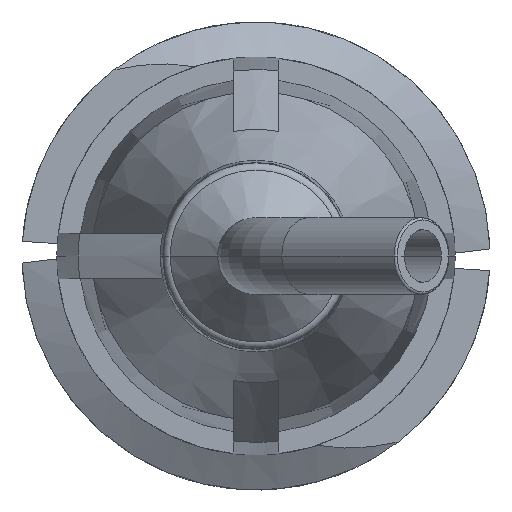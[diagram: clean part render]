
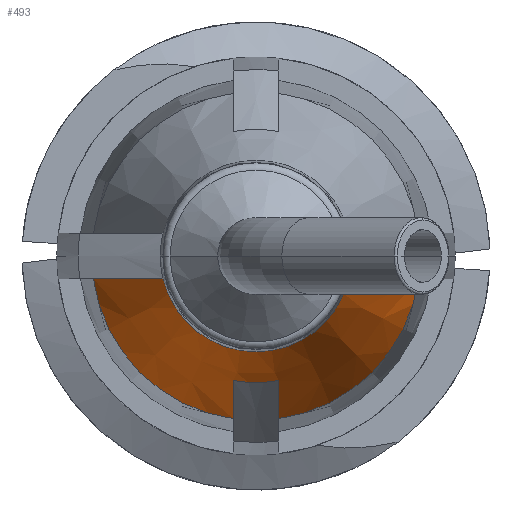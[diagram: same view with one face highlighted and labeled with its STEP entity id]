
A CAD part, front view. The second image highlights one B-rep face of the part: STEP entity #493.
In plain terms, the highlighted conical face has half-angle 20 degrees and reference radius 2.745 mm.
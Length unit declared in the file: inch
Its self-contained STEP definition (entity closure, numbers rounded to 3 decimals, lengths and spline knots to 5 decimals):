
#51 = EDGE_CURVE ( 'NONE', #1313, #1390, #3504, .T. ) ;
#143 = CARTESIAN_POINT ( 'NONE',  ( -0.015, -0.42866, -0.0987 ) ) ;
#208 = VERTEX_POINT ( 'NONE', #4311 ) ;
#240 = ORIENTED_EDGE ( 'NONE', *, *, #2311, .F. ) ;
#275 = CARTESIAN_POINT ( 'NONE',  ( 0.015, -0.42866, -0.0987 ) ) ;
#445 = AXIS2_PLACEMENT_3D ( 'NONE', #800, #3090, #4063 ) ;
#493 = ADVANCED_FACE ( 'NONE', ( #3797 ), #1009, .T. ) ;
#527 = VERTEX_POINT ( 'NONE', #1704 ) ;
#603 = CARTESIAN_POINT ( 'NONE',  ( 0.10703, -0.406, -0.015 ) ) ;
#790 = ORIENTED_EDGE ( 'NONE', *, *, #1453, .T. ) ;
#800 = CARTESIAN_POINT ( 'NONE',  ( 0., -0.406, 0. ) ) ;
#877 = AXIS2_PLACEMENT_3D ( 'NONE', #1320, #3567, #3590 ) ;
#949 = CARTESIAN_POINT ( 'NONE',  ( 0.015, -0.45131, -0.09036 ) ) ;
#1009 = CONICAL_SURFACE ( 'NONE', #445, 0.10808, 0.349 ) ;
#1013 = CARTESIAN_POINT ( 'NONE',  ( -0.015, -0.406, -0.10703 ) ) ;
#1024 = EDGE_LOOP ( 'NONE', ( #1084, #1369, #790, #2202, #1316, #2691, #240, #1149 ) ) ;
#1084 = ORIENTED_EDGE ( 'NONE', *, *, #2301, .F. ) ;
#1116 = VERTEX_POINT ( 'NONE', #2555 ) ;
#1149 = ORIENTED_EDGE ( 'NONE', *, *, #1402, .F. ) ;
#1230 = CARTESIAN_POINT ( 'NONE',  ( -0.07664, -0.48863, -0.015 ) ) ;
#1313 = VERTEX_POINT ( 'NONE', #3020 ) ;
#1316 = ORIENTED_EDGE ( 'NONE', *, *, #51, .F. ) ;
#1320 = CARTESIAN_POINT ( 'NONE',  ( 0., -0.406, 0. ) ) ;
#1329 = VERTEX_POINT ( 'NONE', #2091 ) ;
#1369 = ORIENTED_EDGE ( 'NONE', *, *, #3343, .T. ) ;
#1390 = VERTEX_POINT ( 'NONE', #1013 ) ;
#1402 = EDGE_CURVE ( 'NONE', #1329, #1116, #1747, .T. ) ;
#1453 = EDGE_CURVE ( 'NONE', #527, #3353, #4292, .T. ) ;
#1470 = CARTESIAN_POINT ( 'NONE',  ( -0.015, -0.47395, -0.08198 ) ) ;
#1496 = CARTESIAN_POINT ( 'NONE',  ( -0.06119, -0.52985, -0.015 ) ) ;
#1578 = CIRCLE ( 'NONE', #3841, 0.063 ) ;
#1588 = DIRECTION ( 'NONE',  ( 0., 1., 0. ) ) ;
#1605 = AXIS2_PLACEMENT_3D ( 'NONE', #3823, #2919, #1830 ) ;
#1704 = CARTESIAN_POINT ( 'NONE',  ( -0.06119, -0.52985, -0.015 ) ) ;
#1747 = CIRCLE ( 'NONE', #1605, 0.10808 ) ;
#1830 = DIRECTION ( 'NONE',  ( 1., 0., 0. ) ) ;
#1898 = CARTESIAN_POINT ( 'NONE',  ( 0., -0.52985, 0. ) ) ;
#1910 = CARTESIAN_POINT ( 'NONE',  ( 0., -0.47395, 0. ) ) ;
#1930 = CARTESIAN_POINT ( 'NONE',  ( 0.015, -0.47395, -0.08198 ) ) ;
#1975 = DIRECTION ( 'NONE',  ( -1., 0., 0. ) ) ;
#2091 = CARTESIAN_POINT ( 'NONE',  ( 0.10703, -0.406, -0.015 ) ) ;
#2122 = B_SPLINE_CURVE_WITH_KNOTS ( 'NONE', 3,
 ( #3944, #3001, #2641, #603 ),
 .UNSPECIFIED., .F., .F.,
 ( 4, 4 ),
 ( 0.00282, 0.00617 ),
 .UNSPECIFIED. ) ;
#2202 = ORIENTED_EDGE ( 'NONE', *, *, #2773, .F. ) ;
#2301 = EDGE_CURVE ( 'NONE', #3262, #1329, #2122, .T. ) ;
#2311 = EDGE_CURVE ( 'NONE', #1116, #208, #4123, .T. ) ;
#2555 = CARTESIAN_POINT ( 'NONE',  ( 0.015, -0.406, -0.10703 ) ) ;
#2591 = CARTESIAN_POINT ( 'NONE',  ( -0.015, -0.45131, -0.09036 ) ) ;
#2641 = CARTESIAN_POINT ( 'NONE',  ( 0.09185, -0.44732, -0.015 ) ) ;
#2691 = ORIENTED_EDGE ( 'NONE', *, *, #2722, .F. ) ;
#2722 = EDGE_CURVE ( 'NONE', #208, #1313, #4154, .T. ) ;
#2753 = CIRCLE ( 'NONE', #877, 0.10808 ) ;
#2773 = EDGE_CURVE ( 'NONE', #1390, #3353, #2753, .T. ) ;
#2919 = DIRECTION ( 'NONE',  ( 0., 1., 0. ) ) ;
#2971 = AXIS2_PLACEMENT_3D ( 'NONE', #1910, #3653, #1975 ) ;
#2976 = CARTESIAN_POINT ( 'NONE',  ( 0.015, -0.406, -0.10703 ) ) ;
#3001 = CARTESIAN_POINT ( 'NONE',  ( 0.07664, -0.48863, -0.015 ) ) ;
#3020 = CARTESIAN_POINT ( 'NONE',  ( -0.015, -0.47395, -0.08198 ) ) ;
#3090 = DIRECTION ( 'NONE',  ( 0., 1., 0. ) ) ;
#3240 = CARTESIAN_POINT ( 'NONE',  ( -0.09185, -0.44732, -0.015 ) ) ;
#3262 = VERTEX_POINT ( 'NONE', #4100 ) ;
#3343 = EDGE_CURVE ( 'NONE', #3262, #527, #1578, .T. ) ;
#3353 = VERTEX_POINT ( 'NONE', #3577 ) ;
#3504 = B_SPLINE_CURVE_WITH_KNOTS ( 'NONE', 3,
 ( #1470, #2591, #143, #3816 ),
 .UNSPECIFIED., .F., .F.,
 ( 4, 4 ),
 ( 0.00247, 0.00431 ),
 .UNSPECIFIED. ) ;
#3567 = DIRECTION ( 'NONE',  ( 0., 1., 0. ) ) ;
#3577 = CARTESIAN_POINT ( 'NONE',  ( -0.10703, -0.406, -0.015 ) ) ;
#3590 = DIRECTION ( 'NONE',  ( 1., 0., 0. ) ) ;
#3653 = DIRECTION ( 'NONE',  ( 0., 1., 0. ) ) ;
#3797 = FACE_OUTER_BOUND ( 'NONE', #1024, .T. ) ;
#3816 = CARTESIAN_POINT ( 'NONE',  ( -0.015, -0.406, -0.10703 ) ) ;
#3823 = CARTESIAN_POINT ( 'NONE',  ( 0., -0.406, 0. ) ) ;
#3841 = AXIS2_PLACEMENT_3D ( 'NONE', #1898, #1588, #4303 ) ;
#3944 = CARTESIAN_POINT ( 'NONE',  ( 0.06119, -0.52985, -0.015 ) ) ;
#4063 = DIRECTION ( 'NONE',  ( 1., 0., 0. ) ) ;
#4100 = CARTESIAN_POINT ( 'NONE',  ( 0.06119, -0.52985, -0.015 ) ) ;
#4123 = B_SPLINE_CURVE_WITH_KNOTS ( 'NONE', 3,
 ( #2976, #275, #949, #1930 ),
 .UNSPECIFIED., .F., .F.,
 ( 4, 4 ),
 ( 0.00343, 0.00527 ),
 .UNSPECIFIED. ) ;
#4154 = CIRCLE ( 'NONE', #2971, 0.08335 ) ;
#4209 = CARTESIAN_POINT ( 'NONE',  ( -0.10703, -0.406, -0.015 ) ) ;
#4292 = B_SPLINE_CURVE_WITH_KNOTS ( 'NONE', 3,
 ( #1496, #1230, #3240, #4209 ),
 .UNSPECIFIED., .F., .F.,
 ( 4, 4 ),
 ( 0.00282, 0.00617 ),
 .UNSPECIFIED. ) ;
#4303 = DIRECTION ( 'NONE',  ( 1., 0., 0. ) ) ;
#4311 = CARTESIAN_POINT ( 'NONE',  ( 0.015, -0.47395, -0.08198 ) ) ;
